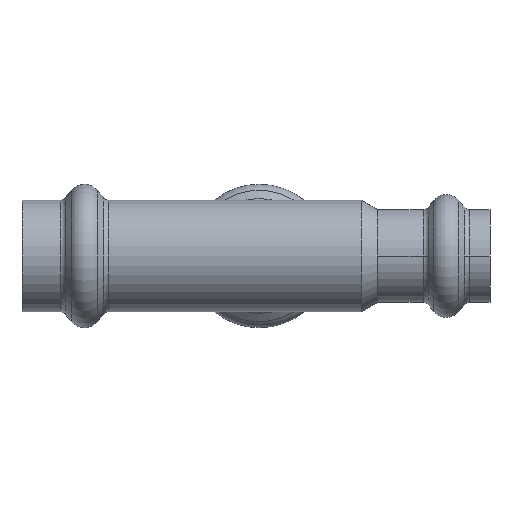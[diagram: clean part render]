
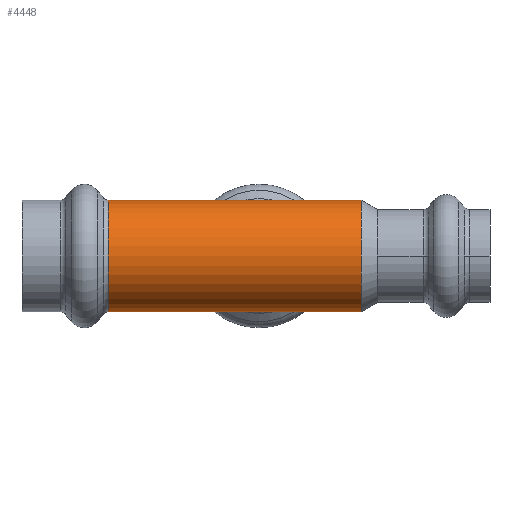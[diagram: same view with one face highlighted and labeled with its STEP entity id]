
A CAD part, front view. The second image highlights one B-rep face of the part: STEP entity #4448.
In plain terms, the highlighted cylindrical face has radius 8.95 mm (diameter 17.9 mm), a partial arc.
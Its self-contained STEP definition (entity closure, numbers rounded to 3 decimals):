
#2 = VECTOR ( 'NONE', #876, 1000. ) ;
#205 = VERTEX_POINT ( 'NONE', #3197 ) ;
#217 = VECTOR ( 'NONE', #3997, 1000. ) ;
#253 = CARTESIAN_POINT ( 'NONE',  ( -24.147, 0., 8.95 ) ) ;
#299 = CARTESIAN_POINT ( 'NONE',  ( 16.347, 0., 0. ) ) ;
#489 = FACE_OUTER_BOUND ( 'NONE', #890, .T. ) ;
#631 = DIRECTION ( 'NONE',  ( 0., 0., 1. ) ) ;
#876 = DIRECTION ( 'NONE',  ( -1., 0., 0. ) ) ;
#890 = EDGE_LOOP ( 'NONE', ( #3522, #4208, #4131, #4397 ) ) ;
#988 = VERTEX_POINT ( 'NONE', #1166 ) ;
#1082 = DIRECTION ( 'NONE',  ( 1., 0., 0. ) ) ;
#1166 = CARTESIAN_POINT ( 'NONE',  ( -24.147, 0., -8.95 ) ) ;
#1275 = CIRCLE ( 'NONE', #1278, 8.95 ) ;
#1278 = AXIS2_PLACEMENT_3D ( 'NONE', #299, #2743, #631 ) ;
#1366 = EDGE_CURVE ( 'NONE', #205, #3984, #1275, .T. ) ;
#2098 = LINE ( 'NONE', #3371, #2 ) ;
#2315 = CARTESIAN_POINT ( 'NONE',  ( -58.611, 0., 0. ) ) ;
#2708 = AXIS2_PLACEMENT_3D ( 'NONE', #3203, #1082, #3570 ) ;
#2743 = DIRECTION ( 'NONE',  ( 1., 0., 0. ) ) ;
#2902 = CARTESIAN_POINT ( 'NONE',  ( -58.611, 0., -8.95 ) ) ;
#2976 = CIRCLE ( 'NONE', #2708, 8.95 ) ;
#3197 = CARTESIAN_POINT ( 'NONE',  ( 16.347, 0., 8.95 ) ) ;
#3203 = CARTESIAN_POINT ( 'NONE',  ( -24.147, 0., 0. ) ) ;
#3371 = CARTESIAN_POINT ( 'NONE',  ( -58.611, 0., 8.95 ) ) ;
#3404 = EDGE_CURVE ( 'NONE', #205, #3532, #2098, .T. ) ;
#3405 = DIRECTION ( 'NONE',  ( -1., 0., 0. ) ) ;
#3522 = ORIENTED_EDGE ( 'NONE', *, *, #4193, .F. ) ;
#3532 = VERTEX_POINT ( 'NONE', #253 ) ;
#3570 = DIRECTION ( 'NONE',  ( 0., 0., 1. ) ) ;
#3799 = EDGE_CURVE ( 'NONE', #3532, #988, #2976, .T. ) ;
#3984 = VERTEX_POINT ( 'NONE', #4214 ) ;
#3995 = LINE ( 'NONE', #2902, #217 ) ;
#3997 = DIRECTION ( 'NONE',  ( -1., 0., 0. ) ) ;
#4045 = CYLINDRICAL_SURFACE ( 'NONE', #4237, 8.95 ) ;
#4131 = ORIENTED_EDGE ( 'NONE', *, *, #3404, .T. ) ;
#4193 = EDGE_CURVE ( 'NONE', #3984, #988, #3995, .T. ) ;
#4208 = ORIENTED_EDGE ( 'NONE', *, *, #1366, .F. ) ;
#4214 = CARTESIAN_POINT ( 'NONE',  ( 16.347, 0., -8.95 ) ) ;
#4237 = AXIS2_PLACEMENT_3D ( 'NONE', #2315, #3405, #4467 ) ;
#4397 = ORIENTED_EDGE ( 'NONE', *, *, #3799, .T. ) ;
#4448 = ADVANCED_FACE ( 'NONE', ( #489 ), #4045, .T. ) ;
#4467 = DIRECTION ( 'NONE',  ( 0., 0., 1. ) ) ;
